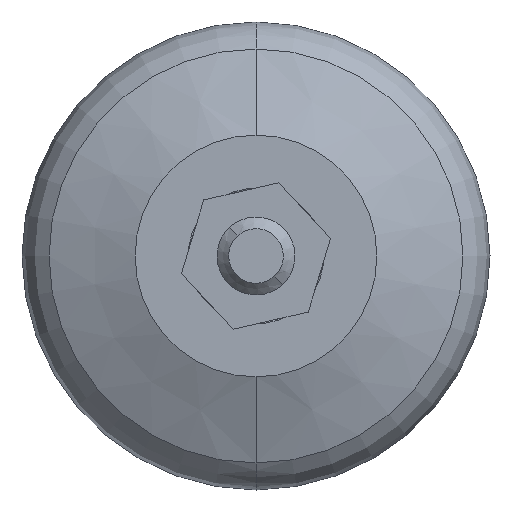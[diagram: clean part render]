
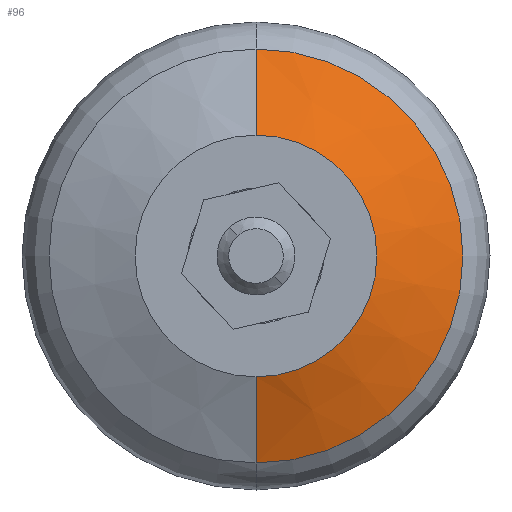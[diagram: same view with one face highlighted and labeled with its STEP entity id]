
A CAD part, front view. The second image highlights one B-rep face of the part: STEP entity #96.
In plain terms, the highlighted conical face has half-angle 68 degrees and reference radius 15.5 mm.
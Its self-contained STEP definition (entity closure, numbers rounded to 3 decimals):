
#2 = ORIENTED_EDGE ( 'NONE', *, *, #6, .T. ) ;
#5 = ORIENTED_EDGE ( 'NONE', *, *, #103, .F. ) ;
#6 = EDGE_CURVE ( 'NONE', #35, #100, #649, .T. ) ;
#35 = VERTEX_POINT ( 'NONE', #703 ) ;
#91 = EDGE_LOOP ( 'NONE', ( #94, #2, #5, #113 ) ) ;
#92 = VERTEX_POINT ( 'NONE', #833 ) ;
#93 = EDGE_CURVE ( 'NONE', #92, #35, #832, .T. ) ;
#94 = ORIENTED_EDGE ( 'NONE', *, *, #93, .T. ) ;
#96 = ADVANCED_FACE ( 'NONE', ( #887 ), #884, .T. ) ;
#100 = VERTEX_POINT ( 'NONE', #874 ) ;
#101 = VERTEX_POINT ( 'NONE', #873 ) ;
#103 = EDGE_CURVE ( 'NONE', #101, #100, #872, .T. ) ;
#113 = ORIENTED_EDGE ( 'NONE', *, *, #132, .F. ) ;
#132 = EDGE_CURVE ( 'NONE', #92, #101, #946, .T. ) ;
#646 = DIRECTION ( 'NONE',  ( 0., 0.375, -0.927 ) ) ;
#647 = VECTOR ( 'NONE', #646, 1000. ) ;
#648 = CARTESIAN_POINT ( 'NONE',  ( 0., -15., -15.5 ) ) ;
#649 = LINE ( 'NONE', #648, #647 ) ;
#703 = CARTESIAN_POINT ( 'NONE',  ( 0., -15., -15.5 ) ) ;
#828 = DIRECTION ( 'NONE',  ( 0., 0., 1. ) ) ;
#829 = DIRECTION ( 'NONE',  ( 0., 1., 0. ) ) ;
#830 = CARTESIAN_POINT ( 'NONE',  ( 0., -15., 0. ) ) ;
#831 = AXIS2_PLACEMENT_3D ( 'NONE', #830, #829, #828 ) ;
#832 = CIRCLE ( 'NONE', #831, 15.5 ) ;
#833 = CARTESIAN_POINT ( 'NONE',  ( 0., -15., 15.5 ) ) ;
#868 = DIRECTION ( 'NONE',  ( 0., 0., 1. ) ) ;
#869 = DIRECTION ( 'NONE',  ( 0., 1., 0. ) ) ;
#870 = CARTESIAN_POINT ( 'NONE',  ( 0., -10.541, 0. ) ) ;
#871 = AXIS2_PLACEMENT_3D ( 'NONE', #870, #869, #868 ) ;
#872 = CIRCLE ( 'NONE', #871, 26.536 ) ;
#873 = CARTESIAN_POINT ( 'NONE',  ( 0., -10.541, 26.536 ) ) ;
#874 = CARTESIAN_POINT ( 'NONE',  ( 0., -10.541, -26.536 ) ) ;
#879 = DIRECTION ( 'NONE',  ( 0., 0., 1. ) ) ;
#880 = DIRECTION ( 'NONE',  ( 0., 1., 0. ) ) ;
#881 = CARTESIAN_POINT ( 'NONE',  ( 0., -15., 0. ) ) ;
#882 = AXIS2_PLACEMENT_3D ( 'NONE', #881, #880, #879 ) ;
#884 = CONICAL_SURFACE ( 'NONE', #882, 15.5, 1.187 ) ;
#887 = FACE_OUTER_BOUND ( 'NONE', #91, .T. ) ;
#943 = DIRECTION ( 'NONE',  ( 0., 0.375, 0.927 ) ) ;
#944 = VECTOR ( 'NONE', #943, 1000. ) ;
#945 = CARTESIAN_POINT ( 'NONE',  ( 0., -15., 15.5 ) ) ;
#946 = LINE ( 'NONE', #945, #944 ) ;
